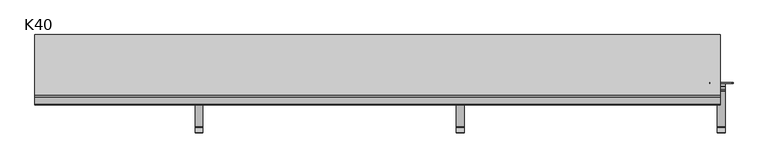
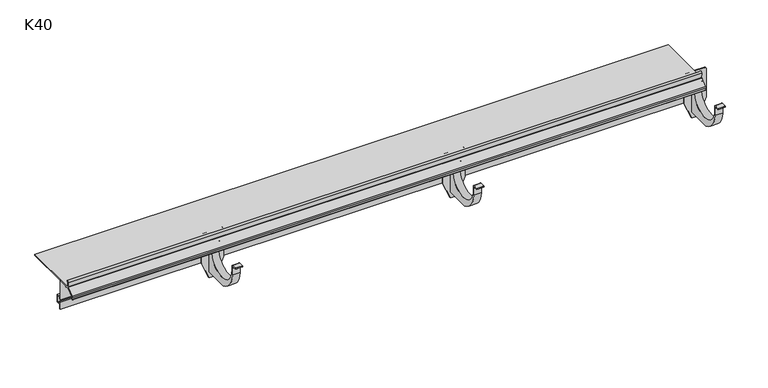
"""IFC4 building model written with IfcOpenShell, lengths in millimetres: proxy geometry, K40 Profil okapowy prosty z rynną : K40."""

from ifc_helpers import new_model, si_unit, point, frame, frame_2d, origin, place, context, project, spatial, polyline, circle_curve, trimmed, segment, composite_curve, outline, extrude, source, transform, mapped, element, save
from ifc_brep_helpers import plane_surface, cylinder_surface, revolved_surface, advanced_brep


def k40_0e8d84a9(model_context):
    return source(origin(), model_context, "Body", "SolidModel", [
        advanced_brep(
        [(1306.4889281, -60.209027, -47.7247657), (1306.4889281, 14.790973, -47.7247657), (1306.4889281, 16.790973, -28.8318799), (1306.4889281, 11.3767594, -29.4176589), (1306.4889281, 9.9625459, -30.8318724), (1306.4889281, 8.5483323, -29.4176589), (1306.4889281, 9.9625459, -28.0034453), (1306.4889281, 12.790973, -26.8318724), (1306.4889281, 22.790973, -26.8318724), (1306.4889281, 22.790973, -101.8318724), (1306.4889281, -28.209027, -101.8322949), (1306.4889281, -62.709027, -57.0416645), (1306.4889281, -62.709027, -42.4216441), (1306.4889281, -62.709027, -38.8322949), (1306.4889281, -71.209027, -38.8322949), (1306.4889281, -71.209027, -36.8322949), (1306.4889281, -61.209027, -36.8322949), (1306.4889281, -60.209027, -37.8322949), (1321.4889281, -60.209027, -47.7247657), (1321.4889281, -60.209027, -37.8322949), (1321.4889281, -61.209027, -36.8322949), (1321.4889281, -71.209027, -36.8322949), (1321.4889281, -71.209027, -38.8322949), (1321.4889281, -62.709027, -38.8322949), (1321.4889281, -62.709027, -42.4216441), (1321.4889281, -62.709027, -57.0416645), (1321.4889281, -28.209027, -101.8322949), (1321.4889281, 22.790973, -101.8318724), (1321.4889281, 22.790973, -26.8318724), (1321.4889281, 12.790973, -26.8318724), (1321.4889281, 9.9625459, -28.0034453), (1321.4889281, 8.5483323, -29.4176589), (1321.4889281, 9.9625459, -30.8318724), (1321.4889281, 11.3767594, -29.4176589), (1321.4889281, 16.790973, -28.8318799), (1321.4889281, 14.790973, -47.7247657), (1333.4889281, 22.790973, -13.8318724), (1294.4889281, 22.790973, -13.8318724), (1291.4889281, 22.790973, -16.8318724), (1291.4889281, 22.790973, -78.8318724), (1305.7196973, 22.790973, -112.9857186), (1308.4889281, 22.790973, -114.8318724), (1319.4889281, 22.790973, -114.8318724), (1322.2581588, 22.790973, -112.9857186), (1336.4889281, 22.790973, -78.8318724), (1336.4889281, 22.790973, -16.8318724), (1333.4889281, 24.790973, -13.8318724), (1336.4889281, 24.790973, -16.8318724), (1336.4889281, 24.790973, -78.8318724), (1322.2581588, 24.790973, -112.9857186), (1319.4889281, 24.790973, -114.8318724), (1308.4889281, 24.790973, -114.8318724), (1305.7196973, 24.790973, -112.9857186), (1291.4889281, 24.790973, -78.8318724), (1291.4889281, 24.790973, -16.8318724), (1294.4889281, 24.790973, -13.8318724)],
        [
            (0, 1, circle_curve(frame((1306.4889281, -22.709027, -47.7247657), z_axis=(1.0, 0.0, 0.0), x_axis=(0.0, -1.0, 0.0)), 37.5)),
            (1, 2),
            (2, 3, circle_curve(frame((1306.4889281, 15.9516361, -46.3881144), z_axis=(1.0, 0.0, 0.0), x_axis=(0.0, -1.0, 0.0)), 17.5762868)),
            (3, 4),
            (4, 5, circle_curve(frame((1306.4889281, 9.2554391, -30.1247657), z_axis=(-1.0, 0.0, 0.0), x_axis=(0.0, -1.0, 0.0)), 1.0)),
            (5, 6),
            (6, 7, circle_curve(frame((1306.4889281, 12.790973, -30.8318724), z_axis=(-1.0, 0.0, 0.0), x_axis=(0.0, -1.0, 0.0)), 4.0)),
            (7, 8),
            (8, 9),
            (9, 10),
            (10, 11, circle_curve(frame((1306.4889281, -10.0286874, -52.1467472), z_axis=(-1.0, 0.0, 0.0), x_axis=(0.0, -1.0, 0.0)), 52.9072622)),
            (11, 12),
            (12, 13),
            (13, 14),
            (14, 15, circle_curve(frame((1306.4889281, -71.209027, -37.8322949), z_axis=(-1.0, 0.0, 0.0), x_axis=(0.0, -1.0, 0.0)), 1.0)),
            (15, 16),
            (16, 17, circle_curve(frame((1306.4889281, -61.209027, -37.8322949), z_axis=(-1.0, 0.0, 0.0), x_axis=(0.0, -1.0, 0.0)), 1.0)),
            (17, 0),
            (18, 19),
            (19, 20, circle_curve(frame((1321.4889281, -61.209027, -37.8322949), z_axis=(1.0, 0.0, 0.0), x_axis=(0.0, -1.0, 0.0)), 1.0)),
            (20, 21),
            (21, 22, circle_curve(frame((1321.4889281, -71.209027, -37.8322949), z_axis=(1.0, 0.0, 0.0), x_axis=(0.0, -1.0, 0.0)), 1.0)),
            (22, 23),
            (23, 24),
            (24, 25),
            (25, 26, circle_curve(frame((1321.4889281, -10.0286874, -52.1467472), z_axis=(1.0, 0.0, 0.0), x_axis=(0.0, -1.0, 0.0)), 52.9072622)),
            (26, 27),
            (27, 28),
            (28, 29),
            (29, 30, circle_curve(frame((1321.4889281, 12.790973, -30.8318724), z_axis=(1.0, 0.0, 0.0), x_axis=(0.0, -1.0, 0.0)), 4.0)),
            (30, 31),
            (31, 32, circle_curve(frame((1321.4889281, 9.2554391, -30.1247657), z_axis=(1.0, 0.0, 0.0), x_axis=(0.0, -1.0, 0.0)), 1.0)),
            (32, 33),
            (33, 34, circle_curve(frame((1321.4889281, 15.9516361, -46.3881144), z_axis=(-1.0, 0.0, 0.0), x_axis=(0.0, -1.0, 0.0)), 17.5762868)),
            (34, 35),
            (35, 18, circle_curve(frame((1321.4889281, -22.709027, -47.7247657), z_axis=(-1.0, 0.0, 0.0), x_axis=(0.0, -1.0, 0.0)), 37.5)),
            (17, 19),
            (18, 0),
            (16, 20),
            (15, 21),
            (14, 22),
            (13, 23),
            (12, 24),
            (11, 25),
            (10, 26),
            (9, 27),
            (7, 29),
            (28, 8),
            (6, 30),
            (5, 31),
            (4, 32),
            (3, 33),
            (2, 34),
            (1, 35),
            (36, 37),
            (37, 38, circle_curve(frame((1294.4889281, 22.790973, -16.8318724), z_axis=(0.0, -1.0, 0.0), x_axis=(1.0, 0.0, 0.0)), 3.0)),
            (38, 39),
            (39, 40),
            (40, 41, circle_curve(frame((1308.4889281, 22.790973, -111.8318724), z_axis=(0.0, -1.0, 0.0), x_axis=(1.0, 0.0, 0.0)), 3.0)),
            (41, 42),
            (42, 43, circle_curve(frame((1319.4889281, 22.790973, -111.8318724), z_axis=(0.0, -1.0, 0.0), x_axis=(1.0, 0.0, 0.0)), 3.0)),
            (43, 44),
            (44, 45),
            (45, 36, circle_curve(frame((1333.4889281, 22.790973, -16.8318724), z_axis=(0.0, -1.0, 0.0), x_axis=(1.0, 0.0, 0.0)), 3.0)),
            (46, 47, circle_curve(frame((1333.4889281, 24.790973, -16.8318724), z_axis=(0.0, 1.0, 0.0), x_axis=(1.0, 0.0, 0.0)), 3.0)),
            (47, 48),
            (48, 49),
            (49, 50, circle_curve(frame((1319.4889281, 24.790973, -111.8318724), z_axis=(0.0, 1.0, 0.0), x_axis=(1.0, 0.0, 0.0)), 3.0)),
            (50, 51),
            (51, 52, circle_curve(frame((1308.4889281, 24.790973, -111.8318724), z_axis=(0.0, 1.0, 0.0), x_axis=(1.0, 0.0, 0.0)), 3.0)),
            (52, 53),
            (53, 54),
            (54, 55, circle_curve(frame((1294.4889281, 24.790973, -16.8318724), z_axis=(0.0, 1.0, 0.0), x_axis=(1.0, 0.0, 0.0)), 3.0)),
            (55, 46),
            (36, 46),
            (55, 37),
            (54, 38),
            (53, 39),
            (52, 40),
            (51, 41),
            (50, 42),
            (49, 43),
            (48, 44),
            (47, 45),
        ],
        [
            plane_surface(frame((1306.4889281, -60.209027, -37.8322949), z_axis=(-1.0, 0.0, 0.0), x_axis=(0.0, 0.0, -1.0))),
            plane_surface(frame((1321.4889281, -60.209027, -37.8322949), z_axis=(1.0, 0.0, 0.0), x_axis=(0.0, 0.0, 1.0))),
            plane_surface(frame((1321.4889281, -60.209027, -47.7247657), z_axis=(0.0, 1.0, 0.0), x_axis=(-1.0, 0.0, 0.0))),
            cylinder_surface(frame((1306.4889281, -61.209027, -37.8322949), z_axis=(1.0, 0.0, 0.0), x_axis=(0.0, -1.0, 0.0)), 1.0),
            plane_surface(frame((1321.4889281, -61.209027, -36.8322949), z_axis=(0.0, 0.0, 1.0), x_axis=(-1.0, 0.0, 0.0))),
            cylinder_surface(frame((1306.4889281, -71.209027, -37.8322949), z_axis=(1.0, 0.0, 0.0), x_axis=(0.0, -1.0, 0.0)), 1.0),
            plane_surface(frame((1321.4889281, -71.209027, -38.8322949), z_axis=(0.0, 0.0, -1.0), x_axis=(-1.0, 0.0, 0.0))),
            plane_surface(frame((1321.4889281, -62.709027, -38.8322949), z_axis=(0.0, -1.0, 0.0), x_axis=(-1.0, 0.0, 0.0))),
            plane_surface(frame((1321.4889281, -62.709027, -42.4216441), z_axis=(0.0, -1.0, 0.0), x_axis=(-1.0, 0.0, 0.0))),
            cylinder_surface(frame((1306.4889281, -10.0286874, -52.1467472), z_axis=(1.0, 0.0, 0.0), x_axis=(0.0, -1.0, 0.0)), 52.9072622),
            plane_surface(frame((1321.4889281, -28.209027, -101.8322949), z_axis=(0.0, 8.283194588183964e-06, -0.9999999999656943), x_axis=(-1.0, 0.0, 0.0))),
            plane_surface(frame((1321.4889281, 23.8342619, -26.8318724), z_axis=(0.0, 0.0, 1.0), x_axis=(-1.0, 0.0, 0.0))),
            cylinder_surface(frame((1306.4889281, 12.790973, -30.8318724), z_axis=(1.0, 0.0, 0.0), x_axis=(0.0, -1.0, 0.0)), 4.0),
            plane_surface(frame((1321.4889281, 9.9625459, -28.0034453), z_axis=(0.0, -0.7071067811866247, 0.7071067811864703), x_axis=(-1.0, 0.0, 0.0))),
            cylinder_surface(frame((1306.4889281, 9.2554391, -30.1247657), z_axis=(1.0, 0.0, 0.0), x_axis=(0.0, -1.0, 0.0)), 1.0),
            plane_surface(frame((1321.4889281, 9.9625459, -30.8318724), z_axis=(0.0, 0.7071067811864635, -0.7071067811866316), x_axis=(-1.0, 0.0, 0.0))),
            revolved_surface(polyline([(1306.4889281, -1.6246506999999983, -46.3881144), (1321.4889281, -1.6246506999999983, -46.3881144)]), (1306.4889281, 15.9516361, -46.3881144), (-1.0, 0.0, 0.0)),
            plane_surface(frame((1321.4889281, 16.790973, -28.8318799), z_axis=(0.0, -0.9944434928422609, 0.10527174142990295), x_axis=(-1.0, 0.0, 0.0))),
            revolved_surface(polyline([(1306.4889281, -60.209027, -47.7247657), (1321.4889281, -60.209027, -47.7247657)]), (1306.4889281, -22.709027, -47.7247657), (-1.0, 0.0, 0.0)),
            plane_surface(frame((1294.4889281, 22.790973, -13.8318724), z_axis=(0.0, -1.0, 0.0), x_axis=(-1.0, 0.0, 0.0))),
            plane_surface(frame((1294.4889281, 24.790973, -13.8318724), z_axis=(0.0, 1.0, 0.0), x_axis=(1.0, 0.0, 0.0))),
            plane_surface(frame((1333.4889281, 22.790973, -13.8318724), z_axis=(0.0, 0.0, 1.0), x_axis=(0.0, 1.0, 0.0))),
            cylinder_surface(frame((1294.4889281, 24.790973, -16.8318724), z_axis=(0.0, -1.0, 0.0), x_axis=(1.0, 0.0, 0.0)), 3.0),
            plane_surface(frame((1291.4889281, 22.790973, -16.8318724), z_axis=(-1.0, 0.0, 0.0), x_axis=(0.0, 1.0, 0.0))),
            plane_surface(frame((1291.4889281, 22.790973, -78.8318724), z_axis=(-0.9230769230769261, 0.0, -0.38461538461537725), x_axis=(0.0, 1.0, 0.0))),
            cylinder_surface(frame((1308.4889281, 24.790973, -111.8318724), z_axis=(0.0, -1.0, 0.0), x_axis=(1.0, 0.0, 0.0)), 3.0),
            plane_surface(frame((1308.4889281, 22.790973, -114.8318724), z_axis=(0.0, 0.0, -1.0), x_axis=(0.0, 1.0, 0.0))),
            cylinder_surface(frame((1319.4889281, 24.790973, -111.8318724), z_axis=(0.0, -1.0, 0.0), x_axis=(1.0, 0.0, 0.0)), 3.0),
            plane_surface(frame((1322.2581588, 22.790973, -112.9857186), z_axis=(0.9230769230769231, 0.0, -0.3846153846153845), x_axis=(0.0, 1.0, 0.0))),
            plane_surface(frame((1336.4889281, 22.790973, -78.8318724), z_axis=(1.0, 0.0, 0.0), x_axis=(0.0, 1.0, 0.0))),
            cylinder_surface(frame((1333.4889281, 24.790973, -16.8318724), z_axis=(0.0, -1.0, 0.0), x_axis=(1.0, 0.0, 0.0)), 3.0),
        ],
        [
            (0, [[1, 2, 3, 4, 5, 6, 7, 8, 9, 10, 11, 12, 13, 14, 15, 16, 17, 18]]),
            (1, [[19, 20, 21, 22, 23, 24, 25, 26, 27, 28, 29, 30, 31, 32, 33, 34, 35, 36]]),
            (2, [[-18, 37, -19, 38]]),
            (3, [[-17, 39, -20, -37]]),
            (4, [[-16, 40, -21, -39]]),
            (5, [[-15, 41, -22, -40]]),
            (6, [[-14, 42, -23, -41]]),
            (7, [[-13, 43, -24, -42]]),
            (8, [[-12, 44, -25, -43]]),
            (9, [[-11, 45, -26, -44]]),
            (10, [[-45, -10, 46, -27]]),
            (11, [[47, -29, 48, -8]]),
            (12, [[-7, 49, -30, -47]]),
            (13, [[-6, 50, -31, -49]]),
            (14, [[-5, 51, -32, -50]]),
            (15, [[-4, 52, -33, -51]]),
            (16, [[-3, 53, -34, -52]]),
            (17, [[-2, 54, -35, -53]]),
            (18, [[-1, -38, -36, -54]]),
            (19, [[55, 56, 57, 58, 59, 60, 61, 62, 63, 64], [-9, -48, -28, -46]]),
            (20, [[65, 66, 67, 68, 69, 70, 71, 72, 73, 74]]),
            (21, [[-55, 75, -74, 76]]),
            (22, [[-56, -76, -73, 77]]),
            (23, [[-57, -77, -72, 78]]),
            (24, [[-58, -78, -71, 79]]),
            (25, [[-59, -79, -70, 80]]),
            (26, [[-60, -80, -69, 81]]),
            (27, [[-61, -81, -68, 82]]),
            (28, [[-62, -82, -67, 83]]),
            (29, [[-63, -83, -66, 84]]),
            (30, [[-64, -84, -65, -75]]),
        ],
    ),
        advanced_brep(
        [(806.4889281, -60.209027, -47.7247657), (806.4889281, 14.790973, -47.7247657), (806.4889281, 16.790973, -28.8318799), (806.4889281, 11.3767594, -29.4176589), (806.4889281, 9.9625459, -30.8318724), (806.4889281, 8.5483323, -29.4176589), (806.4889281, 9.9625459, -28.0034453), (806.4889281, 12.790973, -26.8318724), (806.4889281, 22.790973, -26.8318724), (806.4889281, 22.790973, -101.8318724), (806.4889281, -28.209027, -101.8322949), (806.4889281, -62.709027, -57.0416645), (806.4889281, -62.709027, -42.4216441), (806.4889281, -62.709027, -38.8322949), (806.4889281, -71.209027, -38.8322949), (806.4889281, -71.209027, -36.8322949), (806.4889281, -61.209027, -36.8322949), (806.4889281, -60.209027, -37.8322949), (821.4889281, -60.209027, -47.7247657), (821.4889281, -60.209027, -37.8322949), (821.4889281, -61.209027, -36.8322949), (821.4889281, -71.209027, -36.8322949), (821.4889281, -71.209027, -38.8322949), (821.4889281, -62.709027, -38.8322949), (821.4889281, -62.709027, -42.4216441), (821.4889281, -62.709027, -57.0416645), (821.4889281, -28.209027, -101.8322949), (821.4889281, 22.790973, -101.8318724), (821.4889281, 22.790973, -26.8318724), (821.4889281, 12.790973, -26.8318724), (821.4889281, 9.9625459, -28.0034453), (821.4889281, 8.5483323, -29.4176589), (821.4889281, 9.9625459, -30.8318724), (821.4889281, 11.3767594, -29.4176589), (821.4889281, 16.790973, -28.8318799), (821.4889281, 14.790973, -47.7247657), (833.4889281, 22.790973, -13.8318724), (794.4889281, 22.790973, -13.8318724), (791.4889281, 22.790973, -16.8318724), (791.4889281, 22.790973, -78.8318724), (805.7196973, 22.790973, -112.9857186), (808.4889281, 22.790973, -114.8318724), (819.4889281, 22.790973, -114.8318724), (822.2581588, 22.790973, -112.9857186), (836.4889281, 22.790973, -78.8318724), (836.4889281, 22.790973, -16.8318724), (833.4889281, 24.790973, -13.8318724), (836.4889281, 24.790973, -16.8318724), (836.4889281, 24.790973, -78.8318724), (822.2581588, 24.790973, -112.9857186), (819.4889281, 24.790973, -114.8318724), (808.4889281, 24.790973, -114.8318724), (805.7196973, 24.790973, -112.9857186), (791.4889281, 24.790973, -78.8318724), (791.4889281, 24.790973, -16.8318724), (794.4889281, 24.790973, -13.8318724)],
        [
            (0, 1, circle_curve(frame((806.4889281, -22.709027, -47.7247657), z_axis=(1.0, 0.0, 0.0), x_axis=(0.0, -1.0, 0.0)), 37.5)),
            (1, 2),
            (2, 3, circle_curve(frame((806.4889281, 15.9516361, -46.3881144), z_axis=(1.0, 0.0, 0.0), x_axis=(0.0, -1.0, 0.0)), 17.5762868)),
            (3, 4),
            (4, 5, circle_curve(frame((806.4889281, 9.2554391, -30.1247657), z_axis=(-1.0, 0.0, 0.0), x_axis=(0.0, -1.0, 0.0)), 1.0)),
            (5, 6),
            (6, 7, circle_curve(frame((806.4889281, 12.790973, -30.8318724), z_axis=(-1.0, 0.0, 0.0), x_axis=(0.0, -1.0, 0.0)), 4.0)),
            (7, 8),
            (8, 9),
            (9, 10),
            (10, 11, circle_curve(frame((806.4889281, -10.0286874, -52.1467472), z_axis=(-1.0, 0.0, 0.0), x_axis=(0.0, -1.0, 0.0)), 52.9072622)),
            (11, 12),
            (12, 13),
            (13, 14),
            (14, 15, circle_curve(frame((806.4889281, -71.209027, -37.8322949), z_axis=(-1.0, 0.0, 0.0), x_axis=(0.0, -1.0, 0.0)), 1.0)),
            (15, 16),
            (16, 17, circle_curve(frame((806.4889281, -61.209027, -37.8322949), z_axis=(-1.0, 0.0, 0.0), x_axis=(0.0, -1.0, 0.0)), 1.0)),
            (17, 0),
            (18, 19),
            (19, 20, circle_curve(frame((821.4889281, -61.209027, -37.8322949), z_axis=(1.0, 0.0, 0.0), x_axis=(0.0, -1.0, 0.0)), 1.0)),
            (20, 21),
            (21, 22, circle_curve(frame((821.4889281, -71.209027, -37.8322949), z_axis=(1.0, 0.0, 0.0), x_axis=(0.0, -1.0, 0.0)), 1.0)),
            (22, 23),
            (23, 24),
            (24, 25),
            (25, 26, circle_curve(frame((821.4889281, -10.0286874, -52.1467472), z_axis=(1.0, 0.0, 0.0), x_axis=(0.0, -1.0, 0.0)), 52.9072622)),
            (26, 27),
            (27, 28),
            (28, 29),
            (29, 30, circle_curve(frame((821.4889281, 12.790973, -30.8318724), z_axis=(1.0, 0.0, 0.0), x_axis=(0.0, -1.0, 0.0)), 4.0)),
            (30, 31),
            (31, 32, circle_curve(frame((821.4889281, 9.2554391, -30.1247657), z_axis=(1.0, 0.0, 0.0), x_axis=(0.0, -1.0, 0.0)), 1.0)),
            (32, 33),
            (33, 34, circle_curve(frame((821.4889281, 15.9516361, -46.3881144), z_axis=(-1.0, 0.0, 0.0), x_axis=(0.0, -1.0, 0.0)), 17.5762868)),
            (34, 35),
            (35, 18, circle_curve(frame((821.4889281, -22.709027, -47.7247657), z_axis=(-1.0, 0.0, 0.0), x_axis=(0.0, -1.0, 0.0)), 37.5)),
            (17, 19),
            (18, 0),
            (16, 20),
            (15, 21),
            (14, 22),
            (13, 23),
            (12, 24),
            (11, 25),
            (10, 26),
            (9, 27),
            (7, 29),
            (28, 8),
            (6, 30),
            (5, 31),
            (4, 32),
            (3, 33),
            (2, 34),
            (1, 35),
            (36, 37),
            (37, 38, circle_curve(frame((794.4889281, 22.790973, -16.8318724), z_axis=(0.0, -1.0, 0.0), x_axis=(1.0, 0.0, 0.0)), 3.0)),
            (38, 39),
            (39, 40),
            (40, 41, circle_curve(frame((808.4889281, 22.790973, -111.8318724), z_axis=(0.0, -1.0, 0.0), x_axis=(1.0, 0.0, 0.0)), 3.0)),
            (41, 42),
            (42, 43, circle_curve(frame((819.4889281, 22.790973, -111.8318724), z_axis=(0.0, -1.0, 0.0), x_axis=(1.0, 0.0, 0.0)), 3.0)),
            (43, 44),
            (44, 45),
            (45, 36, circle_curve(frame((833.4889281, 22.790973, -16.8318724), z_axis=(0.0, -1.0, 0.0), x_axis=(1.0, 0.0, 0.0)), 3.0)),
            (46, 47, circle_curve(frame((833.4889281, 24.790973, -16.8318724), z_axis=(0.0, 1.0, 0.0), x_axis=(1.0, 0.0, 0.0)), 3.0)),
            (47, 48),
            (48, 49),
            (49, 50, circle_curve(frame((819.4889281, 24.790973, -111.8318724), z_axis=(0.0, 1.0, 0.0), x_axis=(1.0, 0.0, 0.0)), 3.0)),
            (50, 51),
            (51, 52, circle_curve(frame((808.4889281, 24.790973, -111.8318724), z_axis=(0.0, 1.0, 0.0), x_axis=(1.0, 0.0, 0.0)), 3.0)),
            (52, 53),
            (53, 54),
            (54, 55, circle_curve(frame((794.4889281, 24.790973, -16.8318724), z_axis=(0.0, 1.0, 0.0), x_axis=(1.0, 0.0, 0.0)), 3.0)),
            (55, 46),
            (36, 46),
            (55, 37),
            (54, 38),
            (53, 39),
            (52, 40),
            (51, 41),
            (50, 42),
            (49, 43),
            (48, 44),
            (47, 45),
        ],
        [
            plane_surface(frame((806.4889281, -60.209027, -37.8322949), z_axis=(-1.0, 0.0, 0.0), x_axis=(0.0, 0.0, -1.0))),
            plane_surface(frame((821.4889281, -60.209027, -37.8322949), z_axis=(1.0, 0.0, 0.0), x_axis=(0.0, 0.0, 1.0))),
            plane_surface(frame((821.4889281, -60.209027, -47.7247657), z_axis=(0.0, 1.0, 0.0), x_axis=(-1.0, 0.0, 0.0))),
            cylinder_surface(frame((806.4889281, -61.209027, -37.8322949), z_axis=(1.0, 0.0, 0.0), x_axis=(0.0, -1.0, 0.0)), 1.0),
            plane_surface(frame((821.4889281, -61.209027, -36.8322949), z_axis=(0.0, 0.0, 1.0), x_axis=(-1.0, 0.0, 0.0))),
            cylinder_surface(frame((806.4889281, -71.209027, -37.8322949), z_axis=(1.0, 0.0, 0.0), x_axis=(0.0, -1.0, 0.0)), 1.0),
            plane_surface(frame((821.4889281, -71.209027, -38.8322949), z_axis=(0.0, 0.0, -1.0), x_axis=(-1.0, 0.0, 0.0))),
            plane_surface(frame((821.4889281, -62.709027, -38.8322949), z_axis=(0.0, -1.0, 0.0), x_axis=(-1.0, 0.0, 0.0))),
            plane_surface(frame((821.4889281, -62.709027, -42.4216441), z_axis=(0.0, -1.0, 0.0), x_axis=(-1.0, 0.0, 0.0))),
            cylinder_surface(frame((806.4889281, -10.0286874, -52.1467472), z_axis=(1.0, 0.0, 0.0), x_axis=(0.0, -1.0, 0.0)), 52.9072622),
            plane_surface(frame((821.4889281, -28.209027, -101.8322949), z_axis=(0.0, 8.283194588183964e-06, -0.9999999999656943), x_axis=(-1.0, 0.0, 0.0))),
            plane_surface(frame((821.4889281, 23.8342619, -26.8318724), z_axis=(0.0, 0.0, 1.0), x_axis=(-1.0, 0.0, 0.0))),
            cylinder_surface(frame((806.4889281, 12.790973, -30.8318724), z_axis=(1.0, 0.0, 0.0), x_axis=(0.0, -1.0, 0.0)), 4.0),
            plane_surface(frame((821.4889281, 9.9625459, -28.0034453), z_axis=(0.0, -0.7071067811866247, 0.7071067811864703), x_axis=(-1.0, 0.0, 0.0))),
            cylinder_surface(frame((806.4889281, 9.2554391, -30.1247657), z_axis=(1.0, 0.0, 0.0), x_axis=(0.0, -1.0, 0.0)), 1.0),
            plane_surface(frame((821.4889281, 9.9625459, -30.8318724), z_axis=(0.0, 0.7071067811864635, -0.7071067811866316), x_axis=(-1.0, 0.0, 0.0))),
            revolved_surface(polyline([(806.4889281, -1.6246506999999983, -46.3881144), (821.4889281, -1.6246506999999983, -46.3881144)]), (806.4889281, 15.9516361, -46.3881144), (-1.0, 0.0, 0.0)),
            plane_surface(frame((821.4889281, 16.790973, -28.8318799), z_axis=(0.0, -0.9944434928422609, 0.10527174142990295), x_axis=(-1.0, 0.0, 0.0))),
            revolved_surface(polyline([(806.4889281, -60.209027, -47.7247657), (821.4889281, -60.209027, -47.7247657)]), (806.4889281, -22.709027, -47.7247657), (-1.0, 0.0, 0.0)),
            plane_surface(frame((794.4889281, 22.790973, -13.8318724), z_axis=(0.0, -1.0, 0.0), x_axis=(-1.0, 0.0, 0.0))),
            plane_surface(frame((794.4889281, 24.790973, -13.8318724), z_axis=(0.0, 1.0, 0.0), x_axis=(1.0, 0.0, 0.0))),
            plane_surface(frame((833.4889281, 22.790973, -13.8318724), z_axis=(0.0, 0.0, 1.0), x_axis=(0.0, 1.0, 0.0))),
            cylinder_surface(frame((794.4889281, 24.790973, -16.8318724), z_axis=(0.0, -1.0, 0.0), x_axis=(1.0, 0.0, 0.0)), 3.0),
            plane_surface(frame((791.4889281, 22.790973, -16.8318724), z_axis=(-1.0, 0.0, 0.0), x_axis=(0.0, 1.0, 0.0))),
            plane_surface(frame((791.4889281, 22.790973, -78.8318724), z_axis=(-0.9230769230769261, 0.0, -0.38461538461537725), x_axis=(0.0, 1.0, 0.0))),
            cylinder_surface(frame((808.4889281, 24.790973, -111.8318724), z_axis=(0.0, -1.0, 0.0), x_axis=(1.0, 0.0, 0.0)), 3.0),
            plane_surface(frame((808.4889281, 22.790973, -114.8318724), z_axis=(0.0, 0.0, -1.0), x_axis=(0.0, 1.0, 0.0))),
            cylinder_surface(frame((819.4889281, 24.790973, -111.8318724), z_axis=(0.0, -1.0, 0.0), x_axis=(1.0, 0.0, 0.0)), 3.0),
            plane_surface(frame((822.2581588, 22.790973, -112.9857186), z_axis=(0.9230769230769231, 0.0, -0.3846153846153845), x_axis=(0.0, 1.0, 0.0))),
            plane_surface(frame((836.4889281, 22.790973, -78.8318724), z_axis=(1.0, 0.0, 0.0), x_axis=(0.0, 1.0, 0.0))),
            cylinder_surface(frame((833.4889281, 24.790973, -16.8318724), z_axis=(0.0, -1.0, 0.0), x_axis=(1.0, 0.0, 0.0)), 3.0),
        ],
        [
            (0, [[1, 2, 3, 4, 5, 6, 7, 8, 9, 10, 11, 12, 13, 14, 15, 16, 17, 18]]),
            (1, [[19, 20, 21, 22, 23, 24, 25, 26, 27, 28, 29, 30, 31, 32, 33, 34, 35, 36]]),
            (2, [[-18, 37, -19, 38]]),
            (3, [[-17, 39, -20, -37]]),
            (4, [[-16, 40, -21, -39]]),
            (5, [[-15, 41, -22, -40]]),
            (6, [[-14, 42, -23, -41]]),
            (7, [[-13, 43, -24, -42]]),
            (8, [[-12, 44, -25, -43]]),
            (9, [[-11, 45, -26, -44]]),
            (10, [[-45, -10, 46, -27]]),
            (11, [[47, -29, 48, -8]]),
            (12, [[-7, 49, -30, -47]]),
            (13, [[-6, 50, -31, -49]]),
            (14, [[-5, 51, -32, -50]]),
            (15, [[-4, 52, -33, -51]]),
            (16, [[-3, 53, -34, -52]]),
            (17, [[-2, 54, -35, -53]]),
            (18, [[-1, -38, -36, -54]]),
            (19, [[55, 56, 57, 58, 59, 60, 61, 62, 63, 64], [-9, -48, -28, -46]]),
            (20, [[65, 66, 67, 68, 69, 70, 71, 72, 73, 74]]),
            (21, [[-55, 75, -74, 76]]),
            (22, [[-56, -76, -73, 77]]),
            (23, [[-57, -77, -72, 78]]),
            (24, [[-58, -78, -71, 79]]),
            (25, [[-59, -79, -70, 80]]),
            (26, [[-60, -80, -69, 81]]),
            (27, [[-61, -81, -68, 82]]),
            (28, [[-62, -82, -67, 83]]),
            (29, [[-63, -83, -66, 84]]),
            (30, [[-64, -84, -65, -75]]),
        ],
    ),
        advanced_brep(
        [(306.4889281, -60.209027, -47.7247657), (306.4889281, 14.790973, -47.7247657), (306.4889281, 16.790973, -28.8318799), (306.4889281, 11.3767594, -29.4176589), (306.4889281, 9.9625459, -30.8318724), (306.4889281, 8.5483323, -29.4176589), (306.4889281, 9.9625459, -28.0034453), (306.4889281, 12.790973, -26.8318724), (306.4889281, 22.790973, -26.8318724), (306.4889281, 22.790973, -101.8318724), (306.4889281, -28.209027, -101.8322949), (306.4889281, -62.709027, -57.0416645), (306.4889281, -62.709027, -42.4216441), (306.4889281, -62.709027, -38.8322949), (306.4889281, -71.209027, -38.8322949), (306.4889281, -71.209027, -36.8322949), (306.4889281, -61.209027, -36.8322949), (306.4889281, -60.209027, -37.8322949), (321.4889281, -60.209027, -47.7247657), (321.4889281, -60.209027, -37.8322949), (321.4889281, -61.209027, -36.8322949), (321.4889281, -71.209027, -36.8322949), (321.4889281, -71.209027, -38.8322949), (321.4889281, -62.709027, -38.8322949), (321.4889281, -62.709027, -42.4216441), (321.4889281, -62.709027, -57.0416645), (321.4889281, -28.209027, -101.8322949), (321.4889281, 22.790973, -101.8318724), (321.4889281, 22.790973, -26.8318724), (321.4889281, 12.790973, -26.8318724), (321.4889281, 9.9625459, -28.0034453), (321.4889281, 8.5483323, -29.4176589), (321.4889281, 9.9625459, -30.8318724), (321.4889281, 11.3767594, -29.4176589), (321.4889281, 16.790973, -28.8318799), (321.4889281, 14.790973, -47.7247657), (333.4889281, 22.790973, -13.8318724), (294.4889281, 22.790973, -13.8318724), (291.4889281, 22.790973, -16.8318724), (291.4889281, 22.790973, -78.8318724), (305.7196973, 22.790973, -112.9857186), (308.4889281, 22.790973, -114.8318724), (319.4889281, 22.790973, -114.8318724), (322.2581588, 22.790973, -112.9857186), (336.4889281, 22.790973, -78.8318724), (336.4889281, 22.790973, -16.8318724), (333.4889281, 24.790973, -13.8318724), (336.4889281, 24.790973, -16.8318724), (336.4889281, 24.790973, -78.8318724), (322.2581588, 24.790973, -112.9857186), (319.4889281, 24.790973, -114.8318724), (308.4889281, 24.790973, -114.8318724), (305.7196973, 24.790973, -112.9857186), (291.4889281, 24.790973, -78.8318724), (291.4889281, 24.790973, -16.8318724), (294.4889281, 24.790973, -13.8318724)],
        [
            (0, 1, circle_curve(frame((306.4889281, -22.709027, -47.7247657), z_axis=(1.0, 0.0, 0.0), x_axis=(0.0, -1.0, 0.0)), 37.5)),
            (1, 2),
            (2, 3, circle_curve(frame((306.4889281, 15.9516361, -46.3881144), z_axis=(1.0, 0.0, 0.0), x_axis=(0.0, -1.0, 0.0)), 17.5762868)),
            (3, 4),
            (4, 5, circle_curve(frame((306.4889281, 9.2554391, -30.1247657), z_axis=(-1.0, 0.0, 0.0), x_axis=(0.0, -1.0, 0.0)), 1.0)),
            (5, 6),
            (6, 7, circle_curve(frame((306.4889281, 12.790973, -30.8318724), z_axis=(-1.0, 0.0, 0.0), x_axis=(0.0, -1.0, 0.0)), 4.0)),
            (7, 8),
            (8, 9),
            (9, 10),
            (10, 11, circle_curve(frame((306.4889281, -10.0286874, -52.1467472), z_axis=(-1.0, 0.0, 0.0), x_axis=(0.0, -1.0, 0.0)), 52.9072622)),
            (11, 12),
            (12, 13),
            (13, 14),
            (14, 15, circle_curve(frame((306.4889281, -71.209027, -37.8322949), z_axis=(-1.0, 0.0, 0.0), x_axis=(0.0, -1.0, 0.0)), 1.0)),
            (15, 16),
            (16, 17, circle_curve(frame((306.4889281, -61.209027, -37.8322949), z_axis=(-1.0, 0.0, 0.0), x_axis=(0.0, -1.0, 0.0)), 1.0)),
            (17, 0),
            (18, 19),
            (19, 20, circle_curve(frame((321.4889281, -61.209027, -37.8322949), z_axis=(1.0, 0.0, 0.0), x_axis=(0.0, -1.0, 0.0)), 1.0)),
            (20, 21),
            (21, 22, circle_curve(frame((321.4889281, -71.209027, -37.8322949), z_axis=(1.0, 0.0, 0.0), x_axis=(0.0, -1.0, 0.0)), 1.0)),
            (22, 23),
            (23, 24),
            (24, 25),
            (25, 26, circle_curve(frame((321.4889281, -10.0286874, -52.1467472), z_axis=(1.0, 0.0, 0.0), x_axis=(0.0, -1.0, 0.0)), 52.9072622)),
            (26, 27),
            (27, 28),
            (28, 29),
            (29, 30, circle_curve(frame((321.4889281, 12.790973, -30.8318724), z_axis=(1.0, 0.0, 0.0), x_axis=(0.0, -1.0, 0.0)), 4.0)),
            (30, 31),
            (31, 32, circle_curve(frame((321.4889281, 9.2554391, -30.1247657), z_axis=(1.0, 0.0, 0.0), x_axis=(0.0, -1.0, 0.0)), 1.0)),
            (32, 33),
            (33, 34, circle_curve(frame((321.4889281, 15.9516361, -46.3881144), z_axis=(-1.0, 0.0, 0.0), x_axis=(0.0, -1.0, 0.0)), 17.5762868)),
            (34, 35),
            (35, 18, circle_curve(frame((321.4889281, -22.709027, -47.7247657), z_axis=(-1.0, 0.0, 0.0), x_axis=(0.0, -1.0, 0.0)), 37.5)),
            (17, 19),
            (18, 0),
            (16, 20),
            (15, 21),
            (14, 22),
            (13, 23),
            (12, 24),
            (11, 25),
            (10, 26),
            (9, 27),
            (7, 29),
            (28, 8),
            (6, 30),
            (5, 31),
            (4, 32),
            (3, 33),
            (2, 34),
            (1, 35),
            (36, 37),
            (37, 38, circle_curve(frame((294.4889281, 22.790973, -16.8318724), z_axis=(0.0, -1.0, 0.0), x_axis=(1.0, 0.0, 0.0)), 3.0)),
            (38, 39),
            (39, 40),
            (40, 41, circle_curve(frame((308.4889281, 22.790973, -111.8318724), z_axis=(0.0, -1.0, 0.0), x_axis=(1.0, 0.0, 0.0)), 3.0)),
            (41, 42),
            (42, 43, circle_curve(frame((319.4889281, 22.790973, -111.8318724), z_axis=(0.0, -1.0, 0.0), x_axis=(1.0, 0.0, 0.0)), 3.0)),
            (43, 44),
            (44, 45),
            (45, 36, circle_curve(frame((333.4889281, 22.790973, -16.8318724), z_axis=(0.0, -1.0, 0.0), x_axis=(1.0, 0.0, 0.0)), 3.0)),
            (46, 47, circle_curve(frame((333.4889281, 24.790973, -16.8318724), z_axis=(0.0, 1.0, 0.0), x_axis=(1.0, 0.0, 0.0)), 3.0)),
            (47, 48),
            (48, 49),
            (49, 50, circle_curve(frame((319.4889281, 24.790973, -111.8318724), z_axis=(0.0, 1.0, 0.0), x_axis=(1.0, 0.0, 0.0)), 3.0)),
            (50, 51),
            (51, 52, circle_curve(frame((308.4889281, 24.790973, -111.8318724), z_axis=(0.0, 1.0, 0.0), x_axis=(1.0, 0.0, 0.0)), 3.0)),
            (52, 53),
            (53, 54),
            (54, 55, circle_curve(frame((294.4889281, 24.790973, -16.8318724), z_axis=(0.0, 1.0, 0.0), x_axis=(1.0, 0.0, 0.0)), 3.0)),
            (55, 46),
            (36, 46),
            (55, 37),
            (54, 38),
            (53, 39),
            (52, 40),
            (51, 41),
            (50, 42),
            (49, 43),
            (48, 44),
            (47, 45),
        ],
        [
            plane_surface(frame((306.4889281, -60.209027, -37.8322949), z_axis=(-1.0, 0.0, 0.0), x_axis=(0.0, 0.0, -1.0))),
            plane_surface(frame((321.4889281, -60.209027, -37.8322949), z_axis=(1.0, 0.0, 0.0), x_axis=(0.0, 0.0, 1.0))),
            plane_surface(frame((321.4889281, -60.209027, -47.7247657), z_axis=(0.0, 1.0, 0.0), x_axis=(-1.0, 0.0, 0.0))),
            cylinder_surface(frame((306.4889281, -61.209027, -37.8322949), z_axis=(1.0, 0.0, 0.0), x_axis=(0.0, -1.0, 0.0)), 1.0),
            plane_surface(frame((321.4889281, -61.209027, -36.8322949), z_axis=(0.0, 0.0, 1.0), x_axis=(-1.0, 0.0, 0.0))),
            cylinder_surface(frame((306.4889281, -71.209027, -37.8322949), z_axis=(1.0, 0.0, 0.0), x_axis=(0.0, -1.0, 0.0)), 1.0),
            plane_surface(frame((321.4889281, -71.209027, -38.8322949), z_axis=(0.0, 0.0, -1.0), x_axis=(-1.0, 0.0, 0.0))),
            plane_surface(frame((321.4889281, -62.709027, -38.8322949), z_axis=(0.0, -1.0, 0.0), x_axis=(-1.0, 0.0, 0.0))),
            plane_surface(frame((321.4889281, -62.709027, -42.4216441), z_axis=(0.0, -1.0, 0.0), x_axis=(-1.0, 0.0, 0.0))),
            cylinder_surface(frame((306.4889281, -10.0286874, -52.1467472), z_axis=(1.0, 0.0, 0.0), x_axis=(0.0, -1.0, 0.0)), 52.9072622),
            plane_surface(frame((321.4889281, -28.209027, -101.8322949), z_axis=(0.0, 8.283194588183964e-06, -0.9999999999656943), x_axis=(-1.0, 0.0, 0.0))),
            plane_surface(frame((321.4889281, 23.8342619, -26.8318724), z_axis=(0.0, 0.0, 1.0), x_axis=(-1.0, 0.0, 0.0))),
            cylinder_surface(frame((306.4889281, 12.790973, -30.8318724), z_axis=(1.0, 0.0, 0.0), x_axis=(0.0, -1.0, 0.0)), 4.0),
            plane_surface(frame((321.4889281, 9.9625459, -28.0034453), z_axis=(0.0, -0.7071067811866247, 0.7071067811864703), x_axis=(-1.0, 0.0, 0.0))),
            cylinder_surface(frame((306.4889281, 9.2554391, -30.1247657), z_axis=(1.0, 0.0, 0.0), x_axis=(0.0, -1.0, 0.0)), 1.0),
            plane_surface(frame((321.4889281, 9.9625459, -30.8318724), z_axis=(0.0, 0.7071067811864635, -0.7071067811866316), x_axis=(-1.0, 0.0, 0.0))),
            revolved_surface(polyline([(306.4889281, -1.6246506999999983, -46.3881144), (321.4889281, -1.6246506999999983, -46.3881144)]), (306.4889281, 15.9516361, -46.3881144), (-1.0, 0.0, 0.0)),
            plane_surface(frame((321.4889281, 16.790973, -28.8318799), z_axis=(0.0, -0.9944434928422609, 0.10527174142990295), x_axis=(-1.0, 0.0, 0.0))),
            revolved_surface(polyline([(306.4889281, -60.209027, -47.7247657), (321.4889281, -60.209027, -47.7247657)]), (306.4889281, -22.709027, -47.7247657), (-1.0, 0.0, 0.0)),
            plane_surface(frame((294.4889281, 22.790973, -13.8318724), z_axis=(0.0, -1.0, 0.0), x_axis=(-1.0, 0.0, 0.0))),
            plane_surface(frame((294.4889281, 24.790973, -13.8318724), z_axis=(0.0, 1.0, 0.0), x_axis=(1.0, 0.0, 0.0))),
            plane_surface(frame((333.4889281, 22.790973, -13.8318724), z_axis=(0.0, 0.0, 1.0), x_axis=(0.0, 1.0, 0.0))),
            cylinder_surface(frame((294.4889281, 24.790973, -16.8318724), z_axis=(0.0, -1.0, 0.0), x_axis=(1.0, 0.0, 0.0)), 3.0),
            plane_surface(frame((291.4889281, 22.790973, -16.8318724), z_axis=(-1.0, 0.0, 0.0), x_axis=(0.0, 1.0, 0.0))),
            plane_surface(frame((291.4889281, 22.790973, -78.8318724), z_axis=(-0.9230769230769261, 0.0, -0.38461538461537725), x_axis=(0.0, 1.0, 0.0))),
            cylinder_surface(frame((308.4889281, 24.790973, -111.8318724), z_axis=(0.0, -1.0, 0.0), x_axis=(1.0, 0.0, 0.0)), 3.0),
            plane_surface(frame((308.4889281, 22.790973, -114.8318724), z_axis=(0.0, 0.0, -1.0), x_axis=(0.0, 1.0, 0.0))),
            cylinder_surface(frame((319.4889281, 24.790973, -111.8318724), z_axis=(0.0, -1.0, 0.0), x_axis=(1.0, 0.0, 0.0)), 3.0),
            plane_surface(frame((322.2581588, 22.790973, -112.9857186), z_axis=(0.9230769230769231, 0.0, -0.3846153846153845), x_axis=(0.0, 1.0, 0.0))),
            plane_surface(frame((336.4889281, 22.790973, -78.8318724), z_axis=(1.0, 0.0, 0.0), x_axis=(0.0, 1.0, 0.0))),
            cylinder_surface(frame((333.4889281, 24.790973, -16.8318724), z_axis=(0.0, -1.0, 0.0), x_axis=(1.0, 0.0, 0.0)), 3.0),
        ],
        [
            (0, [[1, 2, 3, 4, 5, 6, 7, 8, 9, 10, 11, 12, 13, 14, 15, 16, 17, 18]]),
            (1, [[19, 20, 21, 22, 23, 24, 25, 26, 27, 28, 29, 30, 31, 32, 33, 34, 35, 36]]),
            (2, [[-18, 37, -19, 38]]),
            (3, [[-17, 39, -20, -37]]),
            (4, [[-16, 40, -21, -39]]),
            (5, [[-15, 41, -22, -40]]),
            (6, [[-14, 42, -23, -41]]),
            (7, [[-13, 43, -24, -42]]),
            (8, [[-12, 44, -25, -43]]),
            (9, [[-11, 45, -26, -44]]),
            (10, [[-45, -10, 46, -27]]),
            (11, [[47, -29, 48, -8]]),
            (12, [[-7, 49, -30, -47]]),
            (13, [[-6, 50, -31, -49]]),
            (14, [[-5, 51, -32, -50]]),
            (15, [[-4, 52, -33, -51]]),
            (16, [[-3, 53, -34, -52]]),
            (17, [[-2, 54, -35, -53]]),
            (18, [[-1, -38, -36, -54]]),
            (19, [[55, 56, 57, 58, 59, 60, 61, 62, 63, 64], [-9, -48, -28, -46]]),
            (20, [[65, 66, 67, 68, 69, 70, 71, 72, 73, 74]]),
            (21, [[-55, 75, -74, 76]]),
            (22, [[-56, -76, -73, 77]]),
            (23, [[-57, -77, -72, 78]]),
            (24, [[-58, -78, -71, 79]]),
            (25, [[-59, -79, -70, 80]]),
            (26, [[-60, -80, -69, 81]]),
            (27, [[-61, -81, -68, 82]]),
            (28, [[-62, -82, -67, 83]]),
            (29, [[-63, -83, -66, 84]]),
            (30, [[-64, -84, -65, -75]]),
        ],
    ),
        extrude(outline(composite_curve([segment(polyline([(24.790973, -57.0495867), (24.790973, -15.0820716), (5.0997493, -15.0820716), (5.0920266, -17.1021433), (4.0927202, -17.1065163), (4.1008046, -15.0820716), (-2.4887219, -15.0820716), (-15.7425283, -25.4001621)]), True, "CONTINUOUS"), segment(trimmed(circle_curve(frame_2d((-14.529488, -26.9902983)), 2.0), [point((-15.7425283, -25.4001621))], [point((-16.5294511, -27.0024549))], True, "CARTESIAN"), True, "CONTINUOUS"), segment(polyline([(-16.5294511, -27.0024549), (-16.5085763, -30.4367198)]), True, "CONTINUOUS"), segment(trimmed(circle_curve(frame_2d((-17.3591685, -30.3418882)), 0.8558621), [point((-16.5085763, -30.4367198))], [point((-18.2085449, -30.4470529))], False, "CARTESIAN"), True, "CONTINUOUS"), segment(polyline([(-18.2085449, -30.4470529), (-18.2315415, -26.6637113)]), True, "CONTINUOUS"), segment(trimmed(circle_curve(frame_2d((-15.2315969, -26.6454765)), 3.0), [point((-18.2315415, -26.6637113))], [point((-17.0511573, -24.2602721))], False, "CARTESIAN"), True, "CONTINUOUS"), segment(polyline([(-17.0511573, -24.2602721), (-3.1518737, -13.3523721)]), True, "CONTINUOUS"), segment(trimmed(circle_curve(frame_2d((-4.1173519, -12.3385419)), 1.4), [point((-3.1518737, -13.3523721))], [point((-2.7242139, -12.4769853))], True, "CARTESIAN"), True, "CONTINUOUS"), segment(polyline([(-2.7242139, -12.4769853), (-2.7829292, -2.8169668)]), True, "CONTINUOUS"), segment(trimmed(circle_curve(frame_2d((0.0170191, -2.7999483)), 2.8), [point((-2.7829292, -2.8169668))], [point((0.0, 0.0))], False, "CARTESIAN"), True, "CONTINUOUS"), segment(polyline([(0.0, 0.0), (0.0109399, -1.7998068)]), True, "CONTINUOUS"), segment(trimmed(circle_curve(frame_2d((0.0120135, -2.7877506)), 0.9879444), [point((0.0109399, -1.7998068))], [point((-0.9757443, -2.7685501))], True, "CARTESIAN"), True, "CONTINUOUS"), segment(polyline([(-0.9757443, -2.7685501), (-0.9115875, -13.3289895), (116.4889281, -13.3289895), (116.4889281, -15.0820716), (26.3208839, -15.0820716), (26.3208839, -51.2995887), (35.5016753, -51.2995887), (35.5016753, -68.292524), (26.5440554, -68.292524), (26.5440554, -78.1012637), (24.8312026, -78.1012637), (24.8312026, -62.5508482), (27.3339394, -62.5508482), (27.3339394, -66.7941249), (33.8031079, -66.7941249), (33.8031079, -52.7987457), (27.3231899, -52.7987457), (27.3231899, -57.0495867), (24.790973, -57.0495867)]), True, "CONTINUOUS")], self_intersect=False)), frame((0.0, 0.0, 0.0), z_axis=(1.0, 0.0, 0.0), x_axis=(0.0, 1.0, 0.0)), (0.0, 0.0, 1.0), 1312.2332516),
    ])


if __name__ == "__main__":
    model = new_model("IFC4")
    model_context = context("Model", 3, world=origin())
    ifc_project = project(units=[si_unit("LENGTHUNIT", "METRE", prefix="MILLI")], contexts=[model_context])
    site = spatial("IfcSite", under=ifc_project)
    building = spatial("IfcBuilding", under=site)
    placement = place(None, origin())
    k40_shape = k40_0e8d84a9(model_context)
    element("IfcBuildingElementProxy", 1, Name="K40 Profil okapowy prosty z rynną : K40", ObjectType="K40 Profil okapowy prosty z rynną : K40", at=placement, inside=building, context=model_context, shape_type="MappedRepresentation", body=[
        mapped(k40_shape, transform((0.0, 0.0, 0.0), x_axis=(1.0, 0.0, 0.0), y_axis=(0.0, 1.0, 0.0), z_axis=(0.0, 0.0, 1.0))),
    ])
    save(model, "model.ifc")
